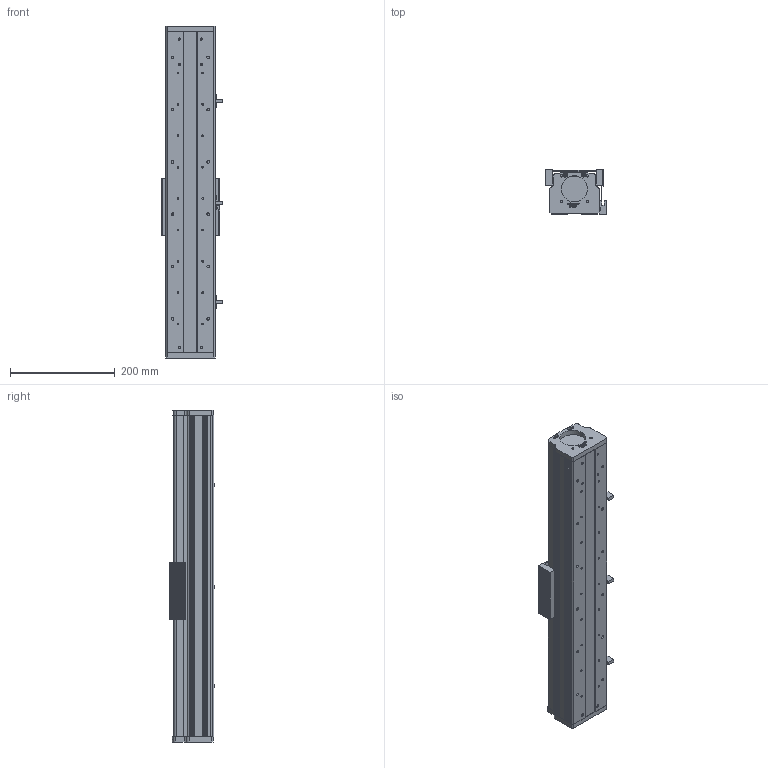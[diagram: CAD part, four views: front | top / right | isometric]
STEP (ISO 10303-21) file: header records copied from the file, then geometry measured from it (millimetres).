
FILE_DESCRIPTION (( 'STEP AP214' ), '1' );
FILE_NAME ('CF95B-C-350-FW.STEP', '2020-07-15T01:49:43', ( '微软用户' ), ( '微软中国' ), 'SwSTEP 2.0', 'SolidWorks 2016', '' );
FILE_SCHEMA (( 'AUTOMOTIVE_DESIGN' ));
Length unit declared in the file: millimetre
Products named in the file (17): 嫖萇羲壽; 75-86-95癹弇羲壽覜茼え; 95B珨极嘐隅釱; circlips for shaft--type a large gb_GB_CONNECTING_PIECE_RING_RRA 12; hexagon socket head cap screws gb_GB_FASTENER_SCREWS_HSHCS M6X25-N; curved single coil spring lock washers gb_GB_FASTENER_WASHER_CSLW 5; CF95B耜啣; hexagon socket head cap screws gb_GB_FASTENER_SCREWS_HSHCS M4X10-N; curved single coil spring lock washers gb_GB_FASTENER_WASHER_CSLW 4; 盓傅釱; CF95B裔啣-350; CF95B賑雄啣; CF95B蹟譫釱; EGH-15-CABZnew; EGR15-350; CF95B菁釱-350; CF95B-C-350-FW
Assembly tree (30 placements, depth 2):
  CF95B-C-350-FW
    CF95B菁釱-350
    EGR15-350  x2
    EGH-15-CABZnew  x2
    CF95B蹟譫釱
    CF95B賑雄啣
    CF95B裔啣-350
    盓傅釱
    curved single coil spring lock washers gb_GB_FASTENER_WASHER_CSLW 4  x4
    hexagon socket head cap screws gb_GB_FASTENER_SCREWS_HSHCS M4X10-N  x4
    CF95B耜啣
    curved single coil spring lock washers gb_GB_FASTENER_WASHER_CSLW 5  x4
    hexagon socket head cap screws gb_GB_FASTENER_SCREWS_HSHCS M6X25-N  x2
    circlips for shaft--type a large gb_GB_CONNECTING_PIECE_RING_RRA 12
    95B珨极嘐隅釱
    75-86-95癹弇羲壽覜茼え
    嫖萇羲壽  x3
Bounding box: 116.1 x 87.55 x 635 mm (x, y, z)
Volume: 2117212.4 mm3; surface area: 759239.8 mm2
Topology: 28 solids, 54 shells, 4554 faces, 16250 edges, 11076 vertices
Faces by surface type: plane 2209, bspline 1302, cylinder 793, cone 126, torus 76, sphere 48
Entity records: 145139 total; most frequent: CARTESIAN_POINT 51266, ORIENTED_EDGE 16482, DIRECTION 12608, EDGE_CURVE 9365, VERTEX_POINT 6387, LINE 5506, VECTOR 5506, AXIS2_PLACEMENT_3D 3551
